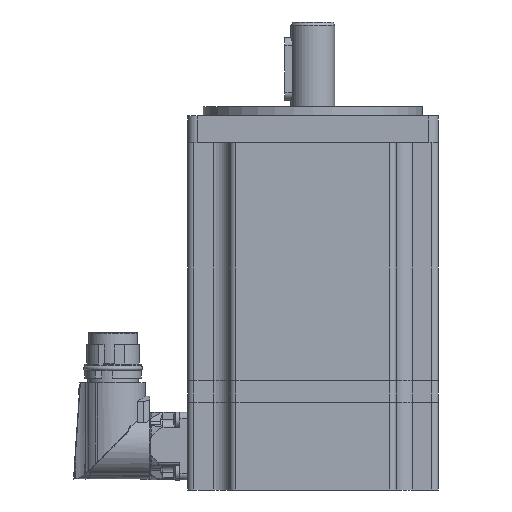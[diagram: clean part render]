
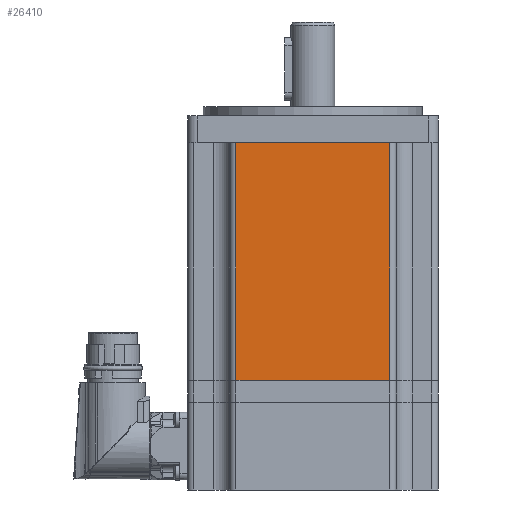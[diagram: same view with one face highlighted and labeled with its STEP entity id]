
A CAD part, left-side view. The second image highlights one B-rep face of the part: STEP entity #26410.
In plain terms, the highlighted planar face has unit normal (-1, 0, 0).
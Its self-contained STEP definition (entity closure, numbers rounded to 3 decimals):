
#4576=FACE_OUTER_BOUND('',#6389,.T.);
#6389=EDGE_LOOP('',(#21890,#21891,#21892,#21893));
#8093=LINE('',#48500,#9619);
#8116=LINE('',#48634,#9642);
#8118=LINE('',#48641,#9644);
#8120=LINE('',#48644,#9646);
#9619=VECTOR('',#35161,49.14);
#9642=VECTOR('',#35294,49.14);
#9644=VECTOR('',#35302,76.);
#9646=VECTOR('',#35306,76.);
#11886=VERTEX_POINT('',#48497);
#11887=VERTEX_POINT('',#48499);
#11942=VERTEX_POINT('',#48631);
#11943=VERTEX_POINT('',#48633);
#15297=EDGE_CURVE('',#11887,#11886,#8093,.T.);
#15356=EDGE_CURVE('',#11942,#11943,#8116,.T.);
#15360=EDGE_CURVE('',#11943,#11886,#8118,.T.);
#15362=EDGE_CURVE('',#11887,#11942,#8120,.T.);
#21890=ORIENTED_EDGE('',*,*,#15360,.F.);
#21891=ORIENTED_EDGE('',*,*,#15356,.F.);
#21892=ORIENTED_EDGE('',*,*,#15362,.F.);
#21893=ORIENTED_EDGE('',*,*,#15297,.T.);
#23596=PLANE('',#29012);
#26410=ADVANCED_FACE('',(#4576),#23596,.T.);
#29012=AXIS2_PLACEMENT_3D('',#48643,#35304,#35305);
#35161=DIRECTION('',(0.,1.,0.));
#35294=DIRECTION('',(0.,1.,0.));
#35302=DIRECTION('',(0.,0.,1.));
#35304=DIRECTION('center_axis',(-1.,0.,0.));
#35305=DIRECTION('ref_axis',(0.,1.,0.));
#35306=DIRECTION('',(0.,0.,-1.));
#48497=CARTESIAN_POINT('',(-40.,24.57,0.));
#48499=CARTESIAN_POINT('',(-40.,-24.57,0.));
#48500=CARTESIAN_POINT('',(-40.,-26.57,0.));
#48631=CARTESIAN_POINT('',(-40.,-24.57,-76.));
#48633=CARTESIAN_POINT('',(-40.,24.57,-76.));
#48634=CARTESIAN_POINT('',(-40.,-26.57,-76.));
#48641=CARTESIAN_POINT('',(-40.,24.57,0.));
#48643=CARTESIAN_POINT('Origin',(-40.,-26.57,0.));
#48644=CARTESIAN_POINT('',(-40.,-24.57,0.));
